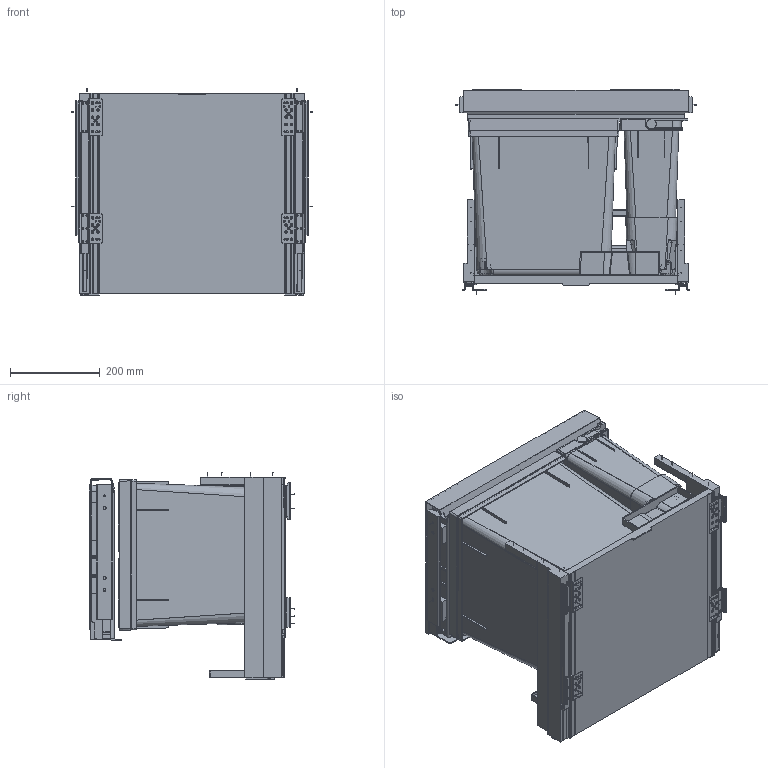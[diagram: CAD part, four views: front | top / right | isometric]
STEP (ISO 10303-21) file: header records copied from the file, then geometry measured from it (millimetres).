
FILE_DESCRIPTION((''),'2;1');
FILE_NAME('X55_M5_PREMIUM_PRO_LIGHT','2024-05-22T17:08:03',('fba'),(''),'CREO PARAMETRIC BY PTC INC, 2022024','CREO PARAMETRIC BY PTC INC, 2022024','');
FILE_SCHEMA(('AUTOMOTIVE_DESIGN { 1 0 10303 214 1 1 1 1 }'));
Products named in the file (17): KOMPLETTAUSZUG_R55_LIGHT; 12245_LIGHT; 12258_LIGHT; 12259_LIGHT; 12247_LIGHT; 12257_LIGHT; 12267_LIGHT; 12270_LIGHT; 12442_LIGHT; 12273_LIGHT; 12260_LIGHT; 12275_LIGHT; 12279_LIGHT; 12282_LIGHT; 12483_LIGHT; 12283_LIGHT; X55_M5_PREMIUM_PRO_LIGHT
Assembly tree (20 placements, depth 3):
  X55_M5_PREMIUM_PRO_LIGHT
    KOMPLETTAUSZUG_R55_LIGHT
    12245_LIGHT
    12258_LIGHT
    12259_LIGHT
    12247_LIGHT
    12257_LIGHT
    12442_LIGHT  x2
      12267_LIGHT
      12270_LIGHT
    12273_LIGHT  x2
    12260_LIGHT  x2
    12275_LIGHT
    12279_LIGHT
    12282_LIGHT
    12483_LIGHT
    12283_LIGHT  x2
Bounding box: 538 x 458 x 461.2 mm (x, y, z)
Volume: 9450894.7 mm3; surface area: 4407091.9 mm2
Topology: 36 solids, 36 shells, 4184 faces, 11091 edges, 7105 vertices
Faces by surface type: plane 2071, cylinder 1171, bspline 410, cone 152, torus 140, extrusion 132, sphere 108
Entity records: 160534 total; most frequent: CARTESIAN_POINT 56453, ORIENTED_EDGE 20206, DIRECTION 17595, EDGE_CURVE 10103, VERTEX_POINT 6503, VECTOR 6131, LINE 6007, AXIS2_PLACEMENT_3D 5732
